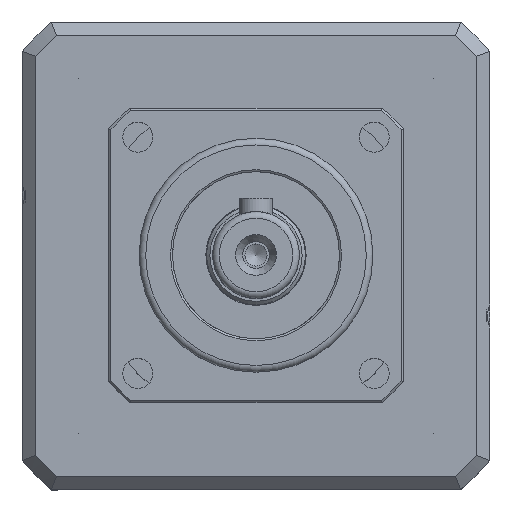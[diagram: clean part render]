
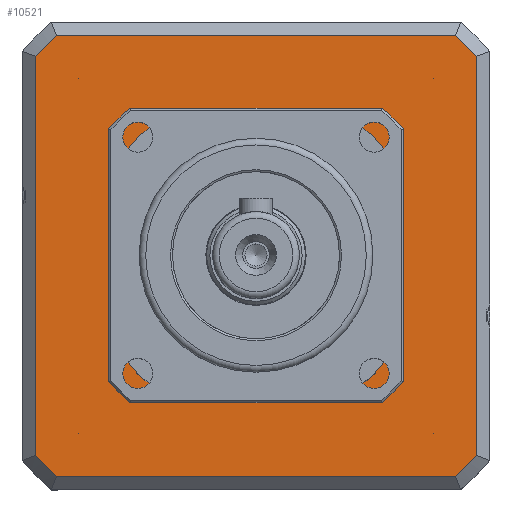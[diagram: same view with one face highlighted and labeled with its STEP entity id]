
A CAD part, top view. The second image highlights one B-rep face of the part: STEP entity #10521.
In plain terms, the highlighted planar face has unit normal (0, 0, 1).
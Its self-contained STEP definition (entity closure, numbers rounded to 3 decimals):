
#10376=CARTESIAN_POINT('',(-35.,-35.,-53.5));
#10377=DIRECTION('',(0.0,0.0,1.0));
#10378=DIRECTION('',(1.0,0.0,0.0));
#10379=AXIS2_PLACEMENT_3D('',#10376,#10377,#10378);
#10380=PLANE('',#10379);
#10381=CARTESIAN_POINT('',(29.854,33.,-53.5));
#10382=VERTEX_POINT('',#10381);
#10383=CARTESIAN_POINT('',(-29.854,33.,-53.5));
#10384=VERTEX_POINT('',#10383);
#10385=CARTESIAN_POINT('',(29.854,33.,-53.5));
#10386=DIRECTION('',(-1.0,0.0,0.0));
#10387=VECTOR('',#10386,59.708);
#10388=LINE('',#10385,#10387);
#10389=EDGE_CURVE('',#10382,#10384,#10388,.T.);
#10390=ORIENTED_EDGE('',*,*,#10389,.T.);
#10391=CARTESIAN_POINT('',(-33.,29.854,-53.5));
#10392=VERTEX_POINT('',#10391);
#10393=CARTESIAN_POINT('',(0.,0.,-53.5));
#10394=DIRECTION('',(0.0,0.0,1.0));
#10395=DIRECTION('',(1.0,0.0,0.0));
#10396=AXIS2_PLACEMENT_3D('',#10393,#10394,#10395);
#10397=CIRCLE('',#10396,44.5);
#10398=EDGE_CURVE('',#10384,#10392,#10397,.T.);
#10399=ORIENTED_EDGE('',*,*,#10398,.T.);
#10400=CARTESIAN_POINT('',(-33.,-29.854,-53.5));
#10401=VERTEX_POINT('',#10400);
#10402=CARTESIAN_POINT('',(-33.,29.854,-53.5));
#10403=DIRECTION('',(0.0,-1.0,0.0));
#10404=VECTOR('',#10403,59.708);
#10405=LINE('',#10402,#10404);
#10406=EDGE_CURVE('',#10392,#10401,#10405,.T.);
#10407=ORIENTED_EDGE('',*,*,#10406,.T.);
#10408=CARTESIAN_POINT('',(-29.854,-33.0,-53.5));
#10409=VERTEX_POINT('',#10408);
#10410=CARTESIAN_POINT('',(0.,0.,-53.5));
#10411=DIRECTION('',(0.0,0.0,1.0));
#10412=DIRECTION('',(1.0,0.0,0.0));
#10413=AXIS2_PLACEMENT_3D('',#10410,#10411,#10412);
#10414=CIRCLE('',#10413,44.5);
#10415=EDGE_CURVE('',#10401,#10409,#10414,.T.);
#10416=ORIENTED_EDGE('',*,*,#10415,.T.);
#10417=CARTESIAN_POINT('',(29.854,-33.0,-53.5));
#10418=VERTEX_POINT('',#10417);
#10419=CARTESIAN_POINT('',(-29.854,-33.0,-53.5));
#10420=DIRECTION('',(1.0,0.0,0.0));
#10421=VECTOR('',#10420,59.708);
#10422=LINE('',#10419,#10421);
#10423=EDGE_CURVE('',#10409,#10418,#10422,.T.);
#10424=ORIENTED_EDGE('',*,*,#10423,.T.);
#10425=CARTESIAN_POINT('',(33.,-29.854,-53.5));
#10426=VERTEX_POINT('',#10425);
#10427=CARTESIAN_POINT('',(0.,0.,-53.5));
#10428=DIRECTION('',(0.0,0.0,1.0));
#10429=DIRECTION('',(1.0,0.0,0.0));
#10430=AXIS2_PLACEMENT_3D('',#10427,#10428,#10429);
#10431=CIRCLE('',#10430,44.5);
#10432=EDGE_CURVE('',#10418,#10426,#10431,.T.);
#10433=ORIENTED_EDGE('',*,*,#10432,.T.);
#10434=CARTESIAN_POINT('',(33.,29.854,-53.5));
#10435=VERTEX_POINT('',#10434);
#10436=CARTESIAN_POINT('',(33.,-29.854,-53.5));
#10437=DIRECTION('',(0.0,1.0,0.0));
#10438=VECTOR('',#10437,59.708);
#10439=LINE('',#10436,#10438);
#10440=EDGE_CURVE('',#10426,#10435,#10439,.T.);
#10441=ORIENTED_EDGE('',*,*,#10440,.T.);
#10442=CARTESIAN_POINT('',(0.,0.,-53.5));
#10443=DIRECTION('',(0.0,0.0,1.0));
#10444=DIRECTION('',(1.0,0.0,0.0));
#10445=AXIS2_PLACEMENT_3D('',#10442,#10443,#10444);
#10446=CIRCLE('',#10445,44.5);
#10447=EDGE_CURVE('',#10435,#10382,#10446,.T.);
#10448=ORIENTED_EDGE('',*,*,#10447,.T.);
#10449=EDGE_LOOP('',(#10390,#10399,#10407,#10416,#10424,#10433,#10441,#10448));
#10450=FACE_OUTER_BOUND('',#10449,.T.);
#10451=CARTESIAN_POINT('',(-22.,11.874,-53.5));
#10452=VERTEX_POINT('',#10451);
#10453=CARTESIAN_POINT('',(-22.,-11.874,-53.5));
#10454=VERTEX_POINT('',#10453);
#10455=CARTESIAN_POINT('',(-22.,11.874,-53.5));
#10456=DIRECTION('',(0.0,-1.0,0.0));
#10457=VECTOR('',#10456,23.749);
#10458=LINE('',#10455,#10457);
#10459=EDGE_CURVE('',#10452,#10454,#10458,.T.);
#10460=ORIENTED_EDGE('',*,*,#10459,.F.);
#10461=CARTESIAN_POINT('',(-11.874,22.,-53.5));
#10462=VERTEX_POINT('',#10461);
#10463=CARTESIAN_POINT('',(0.,0.,-53.5));
#10464=DIRECTION('',(0.0,0.0,1.0));
#10465=DIRECTION('',(1.0,0.0,0.0));
#10466=AXIS2_PLACEMENT_3D('',#10463,#10464,#10465);
#10467=CIRCLE('',#10466,25.);
#10468=EDGE_CURVE('',#10462,#10452,#10467,.T.);
#10469=ORIENTED_EDGE('',*,*,#10468,.F.);
#10470=CARTESIAN_POINT('',(11.874,22.,-53.5));
#10471=VERTEX_POINT('',#10470);
#10472=CARTESIAN_POINT('',(11.874,22.,-53.5));
#10473=DIRECTION('',(-1.0,0.0,0.0));
#10474=VECTOR('',#10473,23.749);
#10475=LINE('',#10472,#10474);
#10476=EDGE_CURVE('',#10471,#10462,#10475,.T.);
#10477=ORIENTED_EDGE('',*,*,#10476,.F.);
#10478=CARTESIAN_POINT('',(22.,11.874,-53.5));
#10479=VERTEX_POINT('',#10478);
#10480=CARTESIAN_POINT('',(0.,0.,-53.5));
#10481=DIRECTION('',(0.0,0.0,1.0));
#10482=DIRECTION('',(1.0,0.0,0.0));
#10483=AXIS2_PLACEMENT_3D('',#10480,#10481,#10482);
#10484=CIRCLE('',#10483,25.);
#10485=EDGE_CURVE('',#10479,#10471,#10484,.T.);
#10486=ORIENTED_EDGE('',*,*,#10485,.F.);
#10487=CARTESIAN_POINT('',(22.,-11.874,-53.5));
#10488=VERTEX_POINT('',#10487);
#10489=CARTESIAN_POINT('',(22.,-11.874,-53.5));
#10490=DIRECTION('',(0.0,1.0,0.0));
#10491=VECTOR('',#10490,23.749);
#10492=LINE('',#10489,#10491);
#10493=EDGE_CURVE('',#10488,#10479,#10492,.T.);
#10494=ORIENTED_EDGE('',*,*,#10493,.F.);
#10495=CARTESIAN_POINT('',(11.874,-22.,-53.5));
#10496=VERTEX_POINT('',#10495);
#10497=CARTESIAN_POINT('',(0.,0.,-53.5));
#10498=DIRECTION('',(0.0,0.0,1.0));
#10499=DIRECTION('',(1.0,0.0,0.0));
#10500=AXIS2_PLACEMENT_3D('',#10497,#10498,#10499);
#10501=CIRCLE('',#10500,25.);
#10502=EDGE_CURVE('',#10496,#10488,#10501,.T.);
#10503=ORIENTED_EDGE('',*,*,#10502,.F.);
#10504=CARTESIAN_POINT('',(-11.874,-22.,-53.5));
#10505=VERTEX_POINT('',#10504);
#10506=CARTESIAN_POINT('',(-11.874,-22.,-53.5));
#10507=DIRECTION('',(1.0,0.0,0.0));
#10508=VECTOR('',#10507,23.749);
#10509=LINE('',#10506,#10508);
#10510=EDGE_CURVE('',#10505,#10496,#10509,.T.);
#10511=ORIENTED_EDGE('',*,*,#10510,.F.);
#10512=CARTESIAN_POINT('',(0.,0.,-53.5));
#10513=DIRECTION('',(0.0,0.0,1.0));
#10514=DIRECTION('',(1.0,0.0,0.0));
#10515=AXIS2_PLACEMENT_3D('',#10512,#10513,#10514);
#10516=CIRCLE('',#10515,25.);
#10517=EDGE_CURVE('',#10454,#10505,#10516,.T.);
#10518=ORIENTED_EDGE('',*,*,#10517,.F.);
#10519=EDGE_LOOP('',(#10460,#10469,#10477,#10486,#10494,#10503,#10511,#10518));
#10520=FACE_BOUND('',#10519,.T.);
#10521=ADVANCED_FACE('',(#10450,#10520),#10380,.T.);
